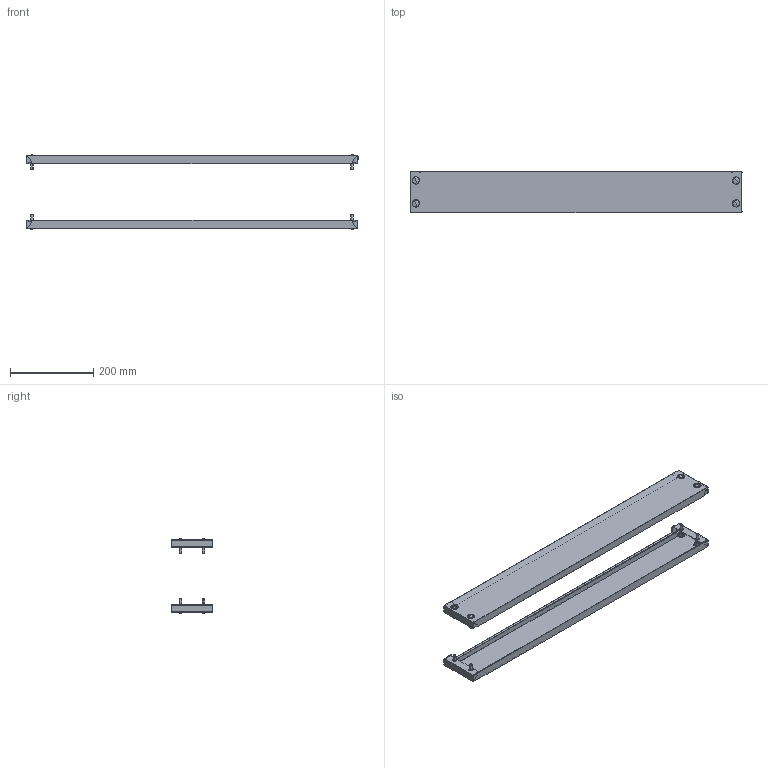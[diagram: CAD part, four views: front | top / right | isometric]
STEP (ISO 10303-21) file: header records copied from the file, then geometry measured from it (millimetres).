
FILE_DESCRIPTION (( 'STEP AP203' ), '1' );
FILE_NAME ('R5FZ8-200.STEP', '2025-06-18T08:38:27', ( '' ), ( '' ), 'SwSTEP 2.0', 'SolidWorks 2022', '' );
FILE_SCHEMA (( 'CONFIG_CONTROL_DESIGN' ));
Length unit declared in the file: millimetre
Products named in the file (5): M6x16 DIN 912 HX cl.4,8 Zinc_stright; R5FZ8-200; Plug_11.5-13Д18ЧК_-00; 6 DIN 6798 A Zinc; RB.1055.00.00.0 simple_-03 (800)
Assembly tree (26 placements, depth 2):
  R5FZ8-200
    RB.1055.00.00.0 simple_-03 (800)  x2
    M6x16 DIN 912 HX cl.4,8 Zinc_stright  x8
    6 DIN 6798 A Zinc  x8
    Plug_11.5-13Д18ЧК_-00  x8
Bounding box: 799 x 100.05 x 178.5 mm (x, y, z)
Volume: 384268.8 mm3; surface area: 520303.7 mm2
Topology: 26 solids, 26 shells, 1196 faces, 3456 edges, 2112 vertices
Faces by surface type: plane 700, bspline 208, cylinder 128, cone 96, torus 48, sphere 16
Entity records: 9921 total; most frequent: CARTESIAN_POINT 2626, ORIENTED_EDGE 1352, DIRECTION 1188, EDGE_CURVE 676, LINE 448, VECTOR 448, VERTEX_POINT 444, AXIS2_PLACEMENT_3D 370
